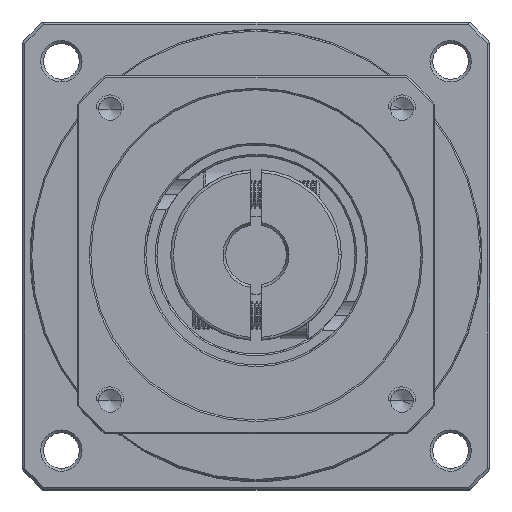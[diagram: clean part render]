
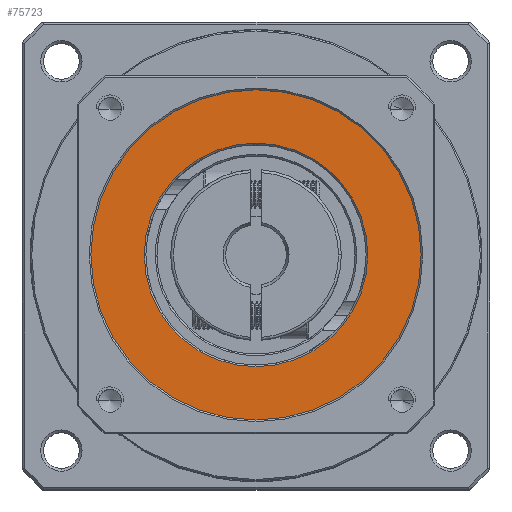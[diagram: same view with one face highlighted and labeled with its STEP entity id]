
A CAD part, top view. The second image highlights one B-rep face of the part: STEP entity #75723.
In plain terms, the highlighted planar face has unit normal (0, 0, 1).
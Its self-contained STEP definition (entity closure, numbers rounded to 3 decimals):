
#83 = AXIS2_PLACEMENT_3D ( 'NONE', #100282, #44725, #109501 ) ;
#3236 = CARTESIAN_POINT ( 'NONE',  ( -69.382, 21.546, 21.706 ) ) ;
#5868 = CARTESIAN_POINT ( 'NONE',  ( -49.082, 21.546, 21.706 ) ) ;
#6956 = VERTEX_POINT ( 'NONE', #24820 ) ;
#6961 = ORIENTED_EDGE ( 'NONE', *, *, #10538, .T. ) ;
#10538 = EDGE_CURVE ( 'NONE', #28481, #31809, #101498, .T. ) ;
#12516 = DIRECTION ( 'NONE',  ( 1., 0., 0. ) ) ;
#14088 = CIRCLE ( 'NONE', #106505, 20.3 ) ;
#24820 = CARTESIAN_POINT ( 'NONE',  ( -39.382, 21.546, 21.706 ) ) ;
#28481 = VERTEX_POINT ( 'NONE', #5868 ) ;
#31809 = VERTEX_POINT ( 'NONE', #119822 ) ;
#33318 = AXIS2_PLACEMENT_3D ( 'NONE', #91749, #36110, #101045 ) ;
#36110 = DIRECTION ( 'NONE',  ( 0., 0., 1. ) ) ;
#40712 = EDGE_CURVE ( 'NONE', #95826, #6956, #105066, .T. ) ;
#43601 = FACE_BOUND ( 'NONE', #87366, .T. ) ;
#44725 = DIRECTION ( 'NONE',  ( 0., 0., 1. ) ) ;
#45607 = CARTESIAN_POINT ( 'NONE',  ( -69.382, 21.546, 21.706 ) ) ;
#48579 = DIRECTION ( 'NONE',  ( 0., 0., 1. ) ) ;
#53575 = EDGE_CURVE ( 'NONE', #6956, #95826, #54456, .T. ) ;
#54456 = CIRCLE ( 'NONE', #83, 30. ) ;
#54905 = DIRECTION ( 'NONE',  ( 1., 0., 0. ) ) ;
#60628 = CARTESIAN_POINT ( 'NONE',  ( -99.382, 21.546, 21.706 ) ) ;
#67998 = DIRECTION ( 'NONE',  ( 0., 0., -1. ) ) ;
#68648 = EDGE_LOOP ( 'NONE', ( #95988, #70118 ) ) ;
#70118 = ORIENTED_EDGE ( 'NONE', *, *, #40712, .T. ) ;
#71226 = AXIS2_PLACEMENT_3D ( 'NONE', #3236, #67998, #12516 ) ;
#75723 = ADVANCED_FACE ( 'NONE', ( #43601, #93002 ), #109846, .T. ) ;
#77165 = ORIENTED_EDGE ( 'NONE', *, *, #109837, .T. ) ;
#87366 = EDGE_LOOP ( 'NONE', ( #6961, #77165 ) ) ;
#91749 = CARTESIAN_POINT ( 'NONE',  ( -69.382, 21.546, 21.706 ) ) ;
#93002 = FACE_OUTER_BOUND ( 'NONE', #68648, .T. ) ;
#95826 = VERTEX_POINT ( 'NONE', #60628 ) ;
#95988 = ORIENTED_EDGE ( 'NONE', *, *, #53575, .T. ) ;
#100282 = CARTESIAN_POINT ( 'NONE',  ( -69.382, 21.546, 21.706 ) ) ;
#101045 = DIRECTION ( 'NONE',  ( 1., 0., 0. ) ) ;
#101498 = CIRCLE ( 'NONE', #71226, 20.3 ) ;
#104141 = CARTESIAN_POINT ( 'NONE',  ( -69.382, 21.546, 21.706 ) ) ;
#105066 = CIRCLE ( 'NONE', #109131, 30. ) ;
#106505 = AXIS2_PLACEMENT_3D ( 'NONE', #45607, #110352, #54905 ) ;
#109131 = AXIS2_PLACEMENT_3D ( 'NONE', #104141, #48579, #113316 ) ;
#109501 = DIRECTION ( 'NONE',  ( 1., 0., 0. ) ) ;
#109837 = EDGE_CURVE ( 'NONE', #31809, #28481, #14088, .T. ) ;
#109846 = PLANE ( 'NONE',  #33318 ) ;
#110352 = DIRECTION ( 'NONE',  ( 0., 0., -1. ) ) ;
#113316 = DIRECTION ( 'NONE',  ( 1., 0., 0. ) ) ;
#119822 = CARTESIAN_POINT ( 'NONE',  ( -89.682, 21.546, 21.706 ) ) ;
